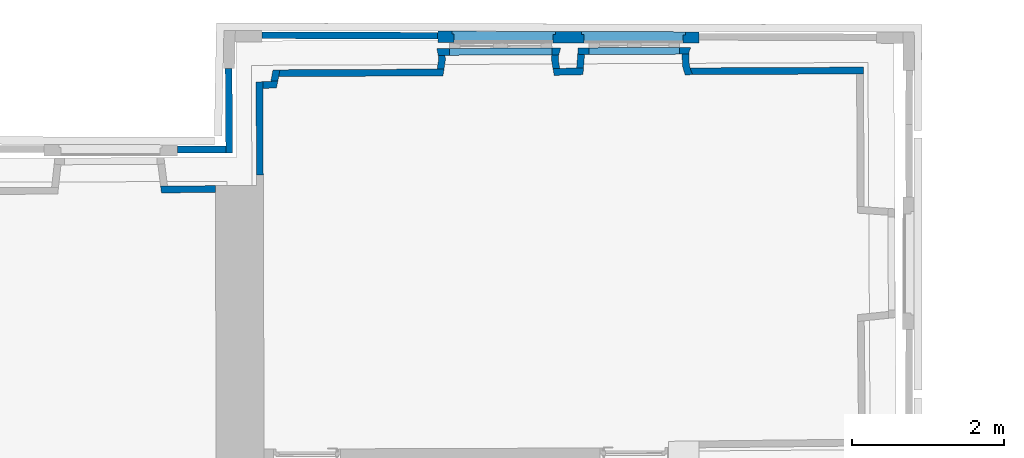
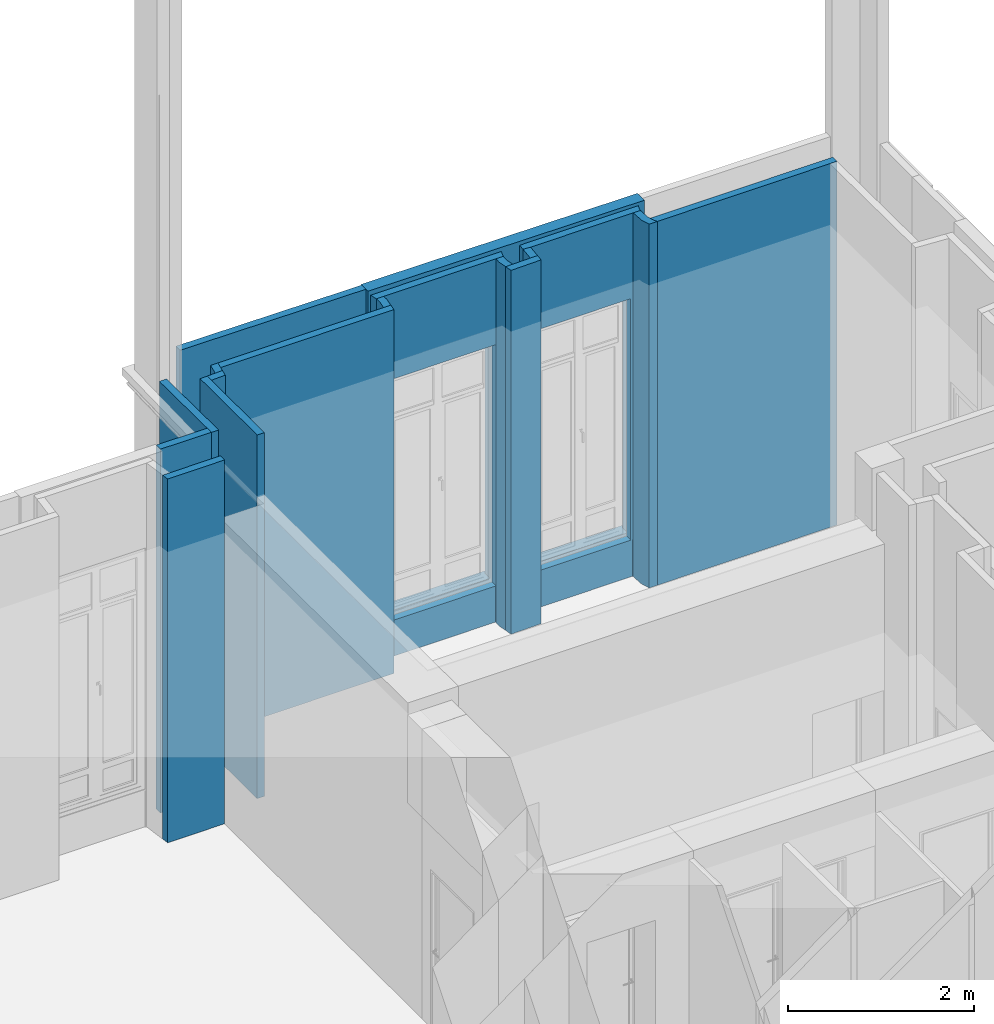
# One storey, part 23 of 97: 17 walls, 6 openings.
"""IFC2X3 building model written with IfcOpenShell, lengths in centimetres."""

from ifc_helpers import new_model, entity, si_unit, converted_unit, direction, frame, origin, origin_with_axes, origin_2d_with_axis, place, context, subcontext, project, spatial, polyline, rectangle, outline, extrude, clip, bounded_halfspace, faceted_brep, shape, material, layer, layer_set, layer_usage, type_object, element, save


model = new_model("IFC2X3")

# Units and contexts
model_context = context("Model", 3, precision=0.0001, world=origin(), true_north=direction((0.225632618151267, 0.974212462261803, 0.0)))
body_context = subcontext(model_context, "Body", "Model", "MODEL_VIEW")
footprint_context = subcontext(model_context, "FootPrint", "Model", "MODEL_VIEW")
profile_context = subcontext(model_context, "Profile", "Model", "MODEL_VIEW")
ifc_project = project(units=[si_unit("LENGTHUNIT", "METRE", prefix="CENTI"), si_unit("AREAUNIT", "SQUARE_METRE", prefix="CENTI"), si_unit("VOLUMEUNIT", "CUBIC_METRE", prefix="CENTI"), converted_unit("PLANEANGLEUNIT", "DEGREE", entity("IfcRatioMeasure", 0.0174532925), si_unit("PLANEANGLEUNIT", "RADIAN"), dimensions=[0, 0, 0, 0, 0, 0, 0])], contexts=[model_context])

# Site, building, storey
site_placement = place(None, origin_with_axes())
site = spatial("IfcSite", under=ifc_project, at=site_placement, Name="Default Site", CompositionType="ELEMENT")
building_placement = place(site_placement, origin_with_axes())
building = spatial("IfcBuilding", under=site, at=building_placement, Name="Default Building", CompositionType="ELEMENT")
storey_placement = place(building_placement, origin_with_axes())
storey = spatial("IfcBuildingStorey", under=building, at=storey_placement, Name="Rez-de-chaussée", CompositionType="ELEMENT", Elevation=0.0)

# Walls
ifc_material = material(Name="<aucun>")
ifc_layer_1 = layer(ifc_material, 9.0)
ifc_layer_set_1 = layer_set([ifc_layer_1], Name="default")
ifc_layer_usage_1 = layer_usage(ifc_layer_set_1, "AXIS2", "POSITIVE", -4.5)
wall_type_1 = type_object("IfcWallType", Name="default 90", PredefinedType="NOTDEFINED", material=ifc_layer_set_1)
wall_1_placement = place(storey_placement, frame((292.076480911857, 571.142306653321, 0.0128503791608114), z_axis=(0.0, 0.0, 1.0), x_axis=(-0.00303669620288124, 0.999995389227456, 0.0)))
element("IfcWallStandardCase", 1, at=wall_1_placement, inside=storey, type_object=wall_type_1, material=ifc_layer_usage_1, Name="Enveloppe 369010", context=body_context, shape_type="SweptSolid", body=[
    extrude(outline(polyline([(122.027487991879, 4.49999999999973), (-1.77635683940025e-13, 4.49999999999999), (-8.88178419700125e-14, -4.49999999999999), (122.426865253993, -4.5000000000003), (122.027487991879, 4.49999999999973)])), frame((0.0, 0.0, -5.42101086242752e-18), z_axis=(0.0, 0.0, 1.0), x_axis=(1.0, 0.0, 0.0)), (0.0, 0.0, 1.0), 477.795358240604),
])
ifc_layer_usage_2 = layer_usage(ifc_layer_set_1, "AXIS2", "POSITIVE", -4.5)
wall_2_placement = place(storey_placement, frame((525.706155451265, 753.802792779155, 0.0128503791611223), z_axis=(0.0, 0.0, 1.0), x_axis=(-0.9999942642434, 0.00338695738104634, 0.0)))
element("IfcWallStandardCase", 2, at=wall_2_placement, inside=storey, type_object=wall_type_1, material=ifc_layer_usage_2, Name="Enveloppe 369829", context=body_context, shape_type="SweptSolid", body=[
    extrude(rectangle(XDim=8.99999999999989, YDim=230.393591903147, at=origin_2d_with_axis()), frame((115.289139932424, 4.44089209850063e-13, 0.0), z_axis=(0.0, 0.0, 1.0), x_axis=(9.83458106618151e-15, -1.0, 0.0)), (0.0, 0.0, 1.0), 477.795358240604),
])
ifc_layer_usage_3 = layer_usage(ifc_layer_set_1, "AXIS2", "POSITIVE", -4.5)
wall_3_placement = place(storey_placement, frame((251.882200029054, 608.969432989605, 0.0128503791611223), z_axis=(0.0, 0.0, 1.0), x_axis=(-0.00735546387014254, 0.999972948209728, 0.0)))
element("IfcWallStandardCase", 3, at=wall_3_placement, inside=storey, type_object=wall_type_1, material=ifc_layer_usage_3, Name="Enveloppe 369832", context=body_context, shape_type="SweptSolid", body=[
    extrude(outline(polyline([(101.849297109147, 4.49999999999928), (-9.00043170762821, 4.50000000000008), (-9.08858455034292, -4.49999999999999), (101.849297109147, -4.5000000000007), (101.849297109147, 4.49999999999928)])), frame((0.0, 0.0, -2.71050543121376e-18), z_axis=(0.0, 0.0, 1.0), x_axis=(1.0, 0.0, 0.0)), (0.0, 0.0, 1.0), 477.795358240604),
])
ifc_layer_usage_4 = layer_usage(ifc_layer_set_1, "AXIS2", "POSITIVE", -4.5)
wall_4_placement = place(storey_placement, frame((248.329683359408, 604.434009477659, 0.0128503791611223), z_axis=(0.0, 0.0, 1.0), x_axis=(-0.999997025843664, 0.00243891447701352, 0.0)))
element("IfcWallStandardCase", 4, at=wall_4_placement, inside=storey, type_object=wall_type_1, material=ifc_layer_usage_4, Name="Enveloppe 369875", context=body_context, shape_type="SweptSolid", body=[
    extrude(outline(polyline([(64.2970171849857, 4.49999999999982), (0.870186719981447, 4.49999999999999), (0.958339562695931, -4.4999999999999), (64.2989353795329, -4.49999863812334), (64.2970171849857, 4.49999999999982)])), origin_with_axes(), (0.0, 0.0, 1.0), 477.795358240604),
])

# Wall, openings
ifc_layer_usage_5 = layer_usage(ifc_layer_set_1, "AXIS2", "POSITIVE", -4.5)
wall_5_placement = place(storey_placement, frame((532.490372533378, 732.679871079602, 0.0128503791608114), z_axis=(0.0, 0.0, 1.0), x_axis=(0.999989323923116, 0.00462082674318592, 0.0)))
wall_5 = element("IfcWallStandardCase", 5, at=wall_5_placement, inside=storey, type_object=wall_type_1, material=ifc_layer_usage_5, Name="Enveloppe 671504", context=body_context, shape_type="SweptSolid", body=[
    extrude(outline(polyline([(-8.07319008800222, 4.49999999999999), (-6.26623625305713, -4.49999999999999), (152.067058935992, -4.50000000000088), (154.474498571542, 4.49999999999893), (-8.07319008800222, 4.49999999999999)])), origin_with_axes(), (0.0, 0.0, 1.0), 477.795358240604),
])
opening_1_placement = place(wall_5_placement, frame((2.8564647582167, 0.0, -1.27677382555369e-13), z_axis=(0.0, 0.0, 1.0), x_axis=(-1.0, 6.84001466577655e-15, 0.0)))
cartesian_point_1 = entity("IfcCartesianPoint", [-8.88178419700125e-14, -8.88178419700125e-14, 48.0])
cartesian_point_2 = entity("IfcCartesianPoint", [-139.98012698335, -4.50000000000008])
element("IfcOpeningElement", 6, at=opening_1_placement, cuts=wall_5, Name="Baie 23852", ObjectType="Recess", shapes=[
    shape(body_context, "Body", "Brep", [faceted_brep([(2.16979396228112e-05, 24.4999819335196, -4.62480059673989e-10), (-139.980119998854, 24.4999819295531, -4.62480059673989e-10), (-139.980119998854, 24.4999819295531, 47.9999993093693), (2.16979396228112e-05, 24.4999819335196, 47.9999993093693), (2.16985346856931e-05, 3.49999234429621, 47.9999993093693), (2.16985346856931e-05, 3.49999234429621, -4.62480059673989e-10), (2.07461233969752e-05, 3.49999234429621, -4.62480059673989e-10), (-139.98012095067, 3.49998672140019, -4.62480059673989e-10), (-139.980119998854, 24.4999763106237, -4.62480059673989e-10), (-139.980119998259, 3.49998672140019, -4.62480059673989e-10), (-139.980119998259, 3.49998672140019, 47.9999993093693), (-139.980119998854, 24.4999763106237, 47.9999993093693), (-139.98012095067, 3.49998672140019, 47.9999993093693), (2.07461233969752e-05, 3.49999234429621, 47.9999993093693), (2.07461233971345e-05, 3.49998672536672, -4.62480059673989e-10), (2.07461233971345e-05, 3.49998672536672, 47.9999993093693)], [[[0, 1, 2, 3]], [[3, 4, 5, 0]], [[0, 6, 7, 8]], [[8, 9, 10, 11]], [[11, 12, 13, 3]], [[12, 7, 14, 15]]])]),
    shape(profile_context, "Profile", "GeometricCurveSet", [entity("IfcGeometricCurveSet", [entity("IfcPolyline", [cartesian_point_1, entity("IfcCartesianPoint", [-8.88178419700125e-14, -8.88178419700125e-14, 0.0]), entity("IfcCartesianPoint", [-139.98012698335, -8.88178419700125e-14, 0.0]), entity("IfcCartesianPoint", [-139.98012698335, -8.88178419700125e-14, 48.0]), cartesian_point_1])])]),
    shape(footprint_context, "FootPrint", "GeometricCurveSet", [entity("IfcGeometricCurveSet", [entity("IfcPolyline", [cartesian_point_2, entity("IfcCartesianPoint", [-8.88178419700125e-14, -4.50000000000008]), entity("IfcCartesianPoint", [-8.88178419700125e-14, 4.49999999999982]), entity("IfcCartesianPoint", [-139.98012698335, 4.49999999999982]), cartesian_point_2])])]),
])
opening_2_placement = place(wall_5_placement, frame((8.44156843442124, 1.13686837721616e-13, 48.1016933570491), z_axis=(0.0, 0.0, 1.0), x_axis=(-1.0, 6.84001466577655e-15, 0.0)))
cartesian_point_3 = entity("IfcCartesianPoint", [-8.88178419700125e-14, 0.0, 317.0])
cartesian_point_4 = entity("IfcCartesianPoint", [-134.395023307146, -4.49999999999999])
element("IfcOpeningElement", 7, at=opening_2_placement, cuts=wall_5, Name="4294966449_11", ObjectType="Opening", shapes=[
    shape(body_context, "Body", "SweptSolid", [extrude(outline(polyline([(0.0, 317.0), (0.0, 0.0), (134.395023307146, 0.0), (134.395023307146, 317.0), (0.0, 317.0)])), frame((0.0, -14.5, 0.0), z_axis=(0.0, 1.0, 0.0), x_axis=(-1.0, 0.0, 0.0)), (0.0, 0.0, 1.0), 29.0)]),
    shape(profile_context, "Profile", "GeometricCurveSet", [entity("IfcGeometricCurveSet", [entity("IfcPolyline", [cartesian_point_3, entity("IfcCartesianPoint", [-8.88178419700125e-14, 0.0, 0.0]), entity("IfcCartesianPoint", [-134.395023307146, 0.0, 0.0]), entity("IfcCartesianPoint", [-134.395023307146, 0.0, 317.0]), cartesian_point_3])])]),
    shape(footprint_context, "FootPrint", "GeometricCurveSet", [entity("IfcGeometricCurveSet", [entity("IfcPolyline", [cartesian_point_4, entity("IfcCartesianPoint", [0.0, -4.4999999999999]), entity("IfcCartesianPoint", [-8.88178419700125e-14, 4.49999999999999]), entity("IfcCartesianPoint", [-134.395023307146, 4.4999999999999]), cartesian_point_4])])]),
])

# Walls
ifc_layer_usage_6 = layer_usage(ifc_layer_set_1, "AXIS2", "POSITIVE", -4.5)
wall_6_placement = place(storey_placement, frame((711.810578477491, 703.08467697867, 0.0128503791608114), z_axis=(0.0, 0.0, 1.0), x_axis=(0.0777964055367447, 0.996969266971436, 0.0)))
element("IfcWallStandardCase", 8, at=wall_6_placement, inside=storey, type_object=wall_type_1, material=ifc_layer_usage_6, Name="Enveloppe 671646", context=body_context, shape_type="SweptSolid", body=[
    extrude(outline(polyline([(8.13278245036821, 4.49999999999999), (9.04623671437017, -4.50000000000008), (26.3840249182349, -4.50000000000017), (26.384024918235, 4.4999999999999), (8.13278245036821, 4.49999999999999)])), origin_with_axes(), (0.0, 0.0, 1.0), 477.795358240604),
])
ifc_layer_usage_7 = layer_usage(ifc_layer_set_1, "AXIS2", "POSITIVE", -4.5)
wall_7_placement = place(storey_placement, frame((316.790902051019, 704.68286229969, 0.0128503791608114), z_axis=(0.0, 0.0, 1.0), x_axis=(0.999989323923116, 0.00462082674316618, 0.0)))
element("IfcWallStandardCase", 9, at=wall_7_placement, inside=storey, type_object=wall_type_1, material=ifc_layer_usage_7, Name="Enveloppe 670785", context=body_context, shape_type="SweptSolid", body=[
    extrude(outline(polyline([(-1.95399252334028e-12, -4.49999999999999), (215.683001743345, -4.49999999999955), (217.101609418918, 4.50000000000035), (1.78202750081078, 4.4999999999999), (-1.95399252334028e-12, -4.49999999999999)])), frame((0.0, 0.0, 2.71050543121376e-18), z_axis=(0.0, 0.0, 1.0), x_axis=(1.0, 0.0, 0.0)), (0.0, 0.0, 1.0), 477.795358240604),
])
ifc_layer_usage_8 = layer_usage(ifc_layer_set_1, "AXIS2", "POSITIVE", -4.5)
wall_8_placement = place(storey_placement, frame((678.366242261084, 706.352874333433, 0.0128503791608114), z_axis=(0.0, 0.0, 1.0), x_axis=(0.999729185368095, 0.0232713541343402, 0.0)))
element("IfcWallStandardCase", 10, at=wall_8_placement, inside=storey, type_object=wall_type_1, material=ifc_layer_usage_8, Name="Enveloppe 671451", context=body_context, shape_type="SweptSolid", body=[
    extrude(outline(polyline([(-1.38239385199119, 4.49999999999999), (-0.000806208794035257, -4.49998122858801), (37.8362234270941, -4.49999999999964), (38.7496776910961, 4.50000000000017), (-1.38239385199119, 4.49999999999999)])), origin_with_axes(), (0.0, 0.0, 1.0), 477.795358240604),
])

# Wall, openings
ifc_layer_usage_9 = layer_usage(ifc_layer_set_1, "AXIS2", "POSITIVE", -4.5)
wall_9_placement = place(storey_placement, frame((714.185493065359, 733.519461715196, 0.0128503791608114), z_axis=(0.0, 0.0, 1.0), x_axis=(0.999989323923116, 0.00462082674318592, 0.0)))
wall_9 = element("IfcWallStandardCase", 11, at=wall_9_placement, inside=storey, type_object=wall_type_1, material=ifc_layer_usage_9, Name="Enveloppe 671854", context=body_context, shape_type="SweptSolid", body=[
    extrude(outline(polyline([(-4.82611232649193, -3.7583784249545), (4.14327992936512, -4.49999999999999), (141.070799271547, -4.50000000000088), (141.765305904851, -0.0822108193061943), (143.830860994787, 4.49999999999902), (-4.14327992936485, 4.50000000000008), (-4.82611232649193, -3.7583784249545)])), origin_with_axes(), (0.0, 0.0, 1.0), 477.795358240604),
])
opening_3_placement = place(wall_9_placement, frame((4.14327992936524, -1.13686837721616e-13, -1.27677382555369e-13), z_axis=(0.0, 0.0, 1.0), x_axis=(-1.0, 6.99527241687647e-15, 0.0)))
cartesian_point_5 = entity("IfcCartesianPoint", [0.0, 8.88178419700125e-14, 49.0])
cartesian_point_6 = entity("IfcCartesianPoint", [-127.799696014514, -4.4999999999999])
element("IfcOpeningElement", 12, at=opening_3_placement, cuts=wall_9, Name="Baie 23855", ObjectType="Recess", shapes=[
    shape(body_context, "Body", "Brep", [faceted_brep([(2.3462822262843e-05, 24.4999910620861, -4.62480059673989e-10), (-127.799659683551, 24.4999910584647, -4.62480059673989e-10), (-127.799659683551, 24.4999910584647, 49.0000013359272), (2.3462822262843e-05, 24.4999910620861, 49.0000013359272), (2.34634173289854e-05, 3.50000147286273, 49.0000013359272), (2.34634173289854e-05, 3.50000147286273, -4.62480059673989e-10), (2.25110060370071e-05, 3.50000147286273, -4.62480059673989e-10), (-127.799708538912, 3.49997906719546, -4.62480059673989e-10), (-127.799659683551, 24.5000161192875, -4.62480059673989e-10), (-127.799659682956, 3.49997906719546, -4.62480059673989e-10), (-127.799659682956, 3.49997906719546, 49.0000013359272), (-127.799659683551, 24.5000161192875, 49.0000013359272), (-127.799708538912, 3.49997906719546, 49.0000013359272), (2.25110060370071e-05, 3.50000147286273, 49.0000013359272), (2.25110060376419e-05, 3.49997907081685, -4.62480059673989e-10), (2.25110060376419e-05, 3.49997907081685, 49.0000013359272)], [[[0, 1, 2, 3]], [[3, 4, 5, 0]], [[0, 6, 7, 8]], [[8, 9, 10, 11]], [[11, 12, 13, 3]], [[12, 7, 14, 15]]])]),
    shape(profile_context, "Profile", "GeometricCurveSet", [entity("IfcGeometricCurveSet", [entity("IfcPolyline", [cartesian_point_5, entity("IfcCartesianPoint", [0.0, 8.88178419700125e-14, 0.0]), entity("IfcCartesianPoint", [-127.799696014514, 8.88178419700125e-14, 0.0]), entity("IfcCartesianPoint", [-127.799696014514, 8.88178419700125e-14, 49.0]), cartesian_point_5])])]),
    shape(footprint_context, "FootPrint", "GeometricCurveSet", [entity("IfcGeometricCurveSet", [entity("IfcPolyline", [cartesian_point_6, entity("IfcCartesianPoint", [8.88178419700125e-14, -4.49999999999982]), entity("IfcCartesianPoint", [0.0, 4.50000000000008]), entity("IfcCartesianPoint", [-127.799696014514, 4.50000000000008]), cartesian_point_6])])]),
])
opening_4_placement = place(wall_9_placement, frame((9.90267929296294, -2.27373675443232e-13, 49.1086073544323), z_axis=(0.0, 0.0, 1.0), x_axis=(-1.0, 6.99527241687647e-15, 0.0)))
cartesian_point_7 = entity("IfcCartesianPoint", [0.0, 0.0, 317.0])
cartesian_point_8 = entity("IfcCartesianPoint", [-118.964460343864, -4.4999999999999])
element("IfcOpeningElement", 13, at=opening_4_placement, cuts=wall_9, Name="4294966460_11", ObjectType="Opening", shapes=[
    shape(body_context, "Body", "SweptSolid", [extrude(outline(polyline([(0.0, 317.0), (0.0, 0.0), (118.964460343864, 0.0), (118.964460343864, 317.0), (0.0, 317.0)])), frame((0.0, -14.5, 0.0), z_axis=(0.0, 1.0, 0.0), x_axis=(-1.0, 0.0, 0.0)), (0.0, 0.0, 1.0), 29.0)]),
    shape(profile_context, "Profile", "GeometricCurveSet", [entity("IfcGeometricCurveSet", [entity("IfcPolyline", [cartesian_point_7, entity("IfcCartesianPoint", [0.0, 0.0, 0.0]), entity("IfcCartesianPoint", [-118.964460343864, 8.88178419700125e-14, 0.0]), entity("IfcCartesianPoint", [-118.964460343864, 8.88178419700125e-14, 317.0]), cartesian_point_7])])]),
    shape(footprint_context, "FootPrint", "GeometricCurveSet", [entity("IfcGeometricCurveSet", [entity("IfcPolyline", [cartesian_point_8, entity("IfcCartesianPoint", [0.0, -4.4999999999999]), entity("IfcCartesianPoint", [-8.88178419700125e-14, 4.49999999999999]), entity("IfcCartesianPoint", [-118.964460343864, 4.50000000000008]), cartesian_point_8])])]),
])

# Walls
ifc_layer_usage_10 = layer_usage(ifc_layer_set_1, "AXIS2", "POSITIVE", -4.5)
wall_10_placement = place(storey_placement, frame((850.433965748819, 707.148764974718, 0.0128503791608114), z_axis=(0.0, 0.0, 1.0), x_axis=(0.999989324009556, 0.00462080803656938, 0.0)))
element("IfcWallStandardCase", 14, at=wall_10_placement, inside=storey, type_object=wall_type_1, material=ifc_layer_usage_10, Name="Enveloppe 672633", context=body_context, shape_type="SweptSolid", body=[
    extrude(outline(polyline([(6.56419229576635, 4.4999999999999), (8.27975409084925, -0.972158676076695), (10.2681251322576, -4.4999999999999), (233.988764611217, -4.49999999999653), (233.981091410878, 4.4997596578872), (6.56419229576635, 4.4999999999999)])), origin_with_axes(), (0.0, 0.0, 1.0), 477.795358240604),
])
ifc_layer_usage_11 = layer_usage(ifc_layer_set_1, "AXIS2", "POSITIVE", -4.5)
wall_11_placement = place(storey_placement, frame((162.900112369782, 552.130191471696, 0.0128503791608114), z_axis=(0.0, 0.0, 1.0), x_axis=(0.999982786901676, 0.00586735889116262, 0.0)))
element("IfcWallStandardCase", 15, at=wall_11_placement, inside=storey, type_object=wall_type_1, material=ifc_layer_usage_11, Name="Enveloppe 669187", context=body_context, shape_type="Clipping", body=[
    clip(extrude(outline(polyline([(-1.09146826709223, 4.49999999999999), (-0.0284032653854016, -4.49999999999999), (70.8199855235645, -4.50101270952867), (70.8454622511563, 4.49902237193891), (-1.09146826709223, 4.49999999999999)])), origin_with_axes(), (0.0, 0.0, 1.0), 477.795358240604), bounded_halfspace(frame((70.8454675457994, 4.49992474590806, 395.995358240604), z_axis=(0.0, 0.0, -1.0), x_axis=(-0.999995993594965, 0.00283068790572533, 0.0)), True, frame((70.8454675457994, 4.49992474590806, 395.995358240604), z_axis=(0.0, 0.0, 1.0), x_axis=(1.0, 0.0, 0.0)), polyline([(-0.0254760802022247, -8.99992474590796), (0.0, 0.0), (-0.0265849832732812, 7.52540921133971e-05), (-0.0254760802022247, -8.99992474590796)]))),
])
ifc_layer_usage_12 = layer_usage(ifc_layer_set_1, "AXIS2", "POSITIVE", -4.5)
wall_12_placement = place(storey_placement, frame((293.767567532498, 688.961652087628, 0.0128503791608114), z_axis=(0.0, 0.0, 1.0), x_axis=(0.998877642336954, 0.0473651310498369, 0.0)))
element("IfcWallStandardCase", 16, at=wall_12_placement, inside=storey, type_object=wall_type_1, material=ifc_layer_usage_12, Name="Enveloppe 670679", context=body_context, shape_type="SweptSolid", body=[
    extrude(outline(polyline([(2.65324040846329, 4.4999999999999), (2.25386314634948, -4.49999999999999), (19.9999999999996, -4.50000000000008), (22.1856375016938, 4.4999999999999), (2.65324040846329, 4.4999999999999)])), frame((0.0, 0.0, -2.71050543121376e-18), z_axis=(0.0, 0.0, 1.0), x_axis=(1.0, 0.0, 0.0)), (0.0, 0.0, 1.0), 477.795358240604),
])
ifc_layer_usage_13 = layer_usage(ifc_layer_set_1, "AXIS2", "POSITIVE", -4.5)
wall_13_placement = place(storey_placement, frame((309.539971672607, 686.267643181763, 0.0128503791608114), z_axis=(0.0, 0.0, 1.0), x_axis=(0.189697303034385, 0.981842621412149, 0.0)))
element("IfcWallStandardCase", 17, at=wall_13_placement, inside=storey, type_object=wall_type_1, material=ifc_layer_usage_13, Name="Enveloppe 670733", context=body_context, shape_type="SweptSolid", body=[
    extrude(outline(polyline([(7.07595044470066, 4.49999999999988), (9.26158794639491, -4.50000000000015), (24.2167561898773, -4.50000000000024), (22.4347286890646, 4.49999999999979), (7.07595044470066, 4.49999999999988)])), origin_with_axes(), (0.0, 0.0, 1.0), 477.795358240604),
])

# Wall, openings
ifc_layer_2 = layer(ifc_material, 15.0)
ifc_layer_set_2 = layer_set([ifc_layer_2], Name="default")
ifc_layer_usage_14 = layer_usage(ifc_layer_set_2, "AXIS2", "POSITIVE", -7.5)
wall_type_2 = type_object("IfcWallType", Name="default 150", PredefinedType="NOTDEFINED", material=ifc_layer_set_2)
wall_14_placement = place(storey_placement, frame((868.665548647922, 751.540434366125, 0.0128503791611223), z_axis=(0.0, 0.0, 1.0), x_axis=(-0.999996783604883, 0.00253629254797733, 0.0)))
wall_14 = element("IfcWallStandardCase", 18, at=wall_14_placement, inside=storey, type_object=wall_type_2, material=ifc_layer_usage_14, Name="Enveloppe 369477", context=body_context, shape_type="SweptSolid", body=[
    extrude(outline(polyline([(343.060200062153, 3.1074140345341), (342.960680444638, 3.10750031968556), (342.960200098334, 7.49999999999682), (1.77635683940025e-13, 7.50000000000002), (-7.93263765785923e-07, 3.39955740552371), (-0.0923439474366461, 3.39932319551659), (-0.099999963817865, -5.60067354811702), (-8.59031423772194e-07, -5.60041992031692), (-1.77635683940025e-13, -7.50000000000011), (342.960200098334, -7.5000000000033), (342.960200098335, -5.89250415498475), (343.052544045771, -5.89258270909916), (343.060200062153, 3.1074140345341)])), frame((0.0, 0.0, -2.71050543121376e-18), z_axis=(0.0, 0.0, 1.0), x_axis=(1.0, 0.0, 0.0)), (0.0, 0.0, 1.0), 477.795358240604),
])
opening_5_placement = place(wall_14_placement, frame((17.9854223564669, -1.13686837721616e-13, 48.2871496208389), z_axis=(0.0, 0.0, 1.0), x_axis=(-1.0, 9.36880781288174e-15, 0.0)))
cartesian_point_9 = entity("IfcCartesianPoint", [-1.77635683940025e-13, 0.0, 345.104807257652])
cartesian_point_10 = entity("IfcCartesianPoint", [-136.071147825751, -7.50000000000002])
element("IfcOpeningElement", 19, at=opening_5_placement, cuts=wall_14, Name="Baie 379478", ObjectType="Opening", shapes=[
    shape(body_context, "Body", "Brep", [faceted_brep([(-2.99997216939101, -27.4999769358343, 345.104817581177), (-133.071124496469, -27.4999769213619, 345.104817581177), (-133.071124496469, -27.4999769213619, 1.02519988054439e-06), (-2.99997216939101, -27.4999769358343, 1.02519988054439e-06), (3.72779799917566e-05, 27.5000078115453, 1.02519988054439e-06), (-136.071128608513, 27.5000078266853, 1.02519988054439e-06), (-136.071128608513, 27.5000078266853, 345.104817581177), (3.72779799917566e-05, 27.5000078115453, 345.104817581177), (-2.9999721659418, 3.5000215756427, 1.02519988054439e-06), (-2.9999721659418, 3.5000215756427, 345.104817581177), (-3.0000144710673, 3.50002157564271, 345.104817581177), (-3.0000144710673, 3.50002157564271, 1.02519988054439e-06), (-3.14726712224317e-05, 3.50002157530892, 1.02519988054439e-06), (-3.14726712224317e-05, 3.50002157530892, 345.104817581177), (-3.14726712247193e-05, 3.50000101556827, 345.104817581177), (-3.14726712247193e-05, 3.50000101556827, 1.02519988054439e-06), (-3.14700008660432e-05, 27.5000078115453, 1.02519988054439e-06), (-3.14700008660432e-05, 27.5000078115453, 345.104817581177), (-133.071124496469, -27.4999994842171, 1.02519988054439e-06), (-133.071166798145, 3.4999990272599, 1.02519988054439e-06), (-136.071149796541, 3.50001958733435, 1.02519988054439e-06), (-136.071128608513, 27.4999785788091, 1.02519988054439e-06), (-133.071124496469, -27.4999994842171, 345.104817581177), (-133.07112449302, 3.4999990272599, 345.104817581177), (-133.07112449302, 3.4999990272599, 1.0251998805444e-06), (-133.071166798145, 3.4999990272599, 345.104817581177), (-136.071149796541, 3.4999990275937, 345.104817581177), (-136.071149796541, 3.4999990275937, 1.02519988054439e-06), (-136.071149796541, 3.50001958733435, 345.104817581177), (-136.071149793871, 27.4999785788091, 345.104817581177), (-136.071149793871, 27.4999785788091, 1.02519988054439e-06), (-136.071128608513, 27.4999785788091, 345.104817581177)], [[[0, 1, 2, 3]], [[4, 5, 6, 7]], [[0, 3, 8, 9]], [[10, 11, 12, 13]], [[14, 15, 16, 17]], [[3, 18, 19, 20, 21, 4, 15, 11]], [[18, 22, 23, 24]], [[19, 25, 26, 27]], [[20, 28, 29, 30]], [[10, 14, 7, 31, 28, 25, 22, 0]]])]),
    shape(profile_context, "Profile", "GeometricCurveSet", [entity("IfcGeometricCurveSet", [entity("IfcPolyline", [cartesian_point_9, entity("IfcCartesianPoint", [0.0, 0.0, -5.55111512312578e-15]), entity("IfcCartesianPoint", [-136.071147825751, 0.0, -5.55111512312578e-15]), entity("IfcCartesianPoint", [-136.071147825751, 0.0, 345.104807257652]), cartesian_point_9])])]),
    shape(footprint_context, "FootPrint", "GeometricCurveSet", [entity("IfcGeometricCurveSet", [entity("IfcPolyline", [cartesian_point_10, entity("IfcCartesianPoint", [0.0, -7.50000000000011]), entity("IfcCartesianPoint", [0.0, 7.49999999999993]), entity("IfcCartesianPoint", [-136.071147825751, 7.50000000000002]), cartesian_point_10])])]),
])
opening_6_placement = place(wall_14_placement, frame((188.726890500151, -1.59161572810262e-12, 47.947255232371), z_axis=(0.0, 0.0, 1.0), x_axis=(-1.0, 9.36880781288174e-15, 0.0)))
cartesian_point_11 = entity("IfcCartesianPoint", [-1.77635683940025e-13, 8.88178419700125e-14, 345.42685236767])
cartesian_point_12 = entity("IfcCartesianPoint", [-135.828483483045, -7.49999999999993])
element("IfcOpeningElement", 20, at=opening_6_placement, cuts=wall_14, Name="Baie 379479", ObjectType="Opening", shapes=[
    shape(body_context, "Body", "Brep", [faceted_brep([(-2.99999129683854, -27.5000114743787, 345.42685441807), (-132.828480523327, -27.5000114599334, 345.42685441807), (-132.828480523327, -27.5000114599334, -7.31639471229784e-08), (-2.99999129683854, -27.5000114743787, -7.31639471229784e-08), (1.80295924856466e-05, 27.5000209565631, -7.31639471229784e-08), (-135.828484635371, 27.500020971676, -7.31639471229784e-08), (-135.828484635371, 27.500020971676, 345.42685441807), (1.80295924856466e-05, 27.5000209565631, 345.42685441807), (-2.99999129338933, 3.49998715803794, -7.31639471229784e-08), (-2.99999129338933, 3.49998715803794, 345.42685441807), (-2.99998591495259, 3.49998715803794, 345.42685441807), (-2.99998591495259, 3.49998715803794, -7.31639471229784e-08), (-3.03749630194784e-06, 3.49998715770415, -7.31639471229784e-08), (-3.03749630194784e-06, 3.49998715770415, 345.42685441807), (-3.03749629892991e-06, 3.50001428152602, 345.42685441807), (-3.03749629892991e-06, 3.50001428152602, -7.31639471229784e-08), (-3.03482594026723e-06, 27.5000209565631, -7.31639471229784e-08), (-3.03482594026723e-06, 27.5000209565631, 345.42685441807), (-132.828480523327, -27.4999907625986, -7.31639471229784e-08), (-132.828475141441, 3.50000786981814, -7.31639471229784e-08), (-135.82850570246, 3.49998062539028, -7.31639471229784e-08), (-135.828484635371, 27.4999873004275, -7.31639471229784e-08), (-132.828480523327, -27.4999907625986, 345.42685441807), (-132.828480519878, 3.50000786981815, 345.42685441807), (-132.828480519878, 3.50000786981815, -7.31639471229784e-08), (-132.828475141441, 3.50000786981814, 345.42685441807), (-135.82850570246, 3.50000787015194, 345.42685441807), (-135.82850570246, 3.50000787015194, -7.31639471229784e-08), (-135.82850570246, 3.49998062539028, 345.42685441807), (-135.828505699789, 27.4999873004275, 345.42685441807), (-135.828505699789, 27.4999873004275, -7.31639471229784e-08), (-135.828484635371, 27.4999873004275, 345.42685441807)], [[[0, 1, 2, 3]], [[4, 5, 6, 7]], [[0, 3, 8, 9]], [[10, 11, 12, 13]], [[14, 15, 16, 17]], [[3, 18, 19, 20, 21, 4, 15, 11]], [[18, 22, 23, 24]], [[19, 25, 26, 27]], [[20, 28, 29, 30]], [[10, 14, 7, 31, 28, 25, 22, 0]]])]),
    shape(profile_context, "Profile", "GeometricCurveSet", [entity("IfcGeometricCurveSet", [entity("IfcPolyline", [cartesian_point_11, entity("IfcCartesianPoint", [-1.77635683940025e-13, 8.88178419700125e-14, -5.55111512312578e-15]), entity("IfcCartesianPoint", [-135.828483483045, 8.88178419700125e-14, -5.55111512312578e-15]), entity("IfcCartesianPoint", [-135.828483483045, 8.88178419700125e-14, 345.42685236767]), cartesian_point_11])])]),
    shape(footprint_context, "FootPrint", "GeometricCurveSet", [entity("IfcGeometricCurveSet", [entity("IfcPolyline", [cartesian_point_12, entity("IfcCartesianPoint", [-8.88178419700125e-14, -7.49999999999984]), entity("IfcCartesianPoint", [-1.77635683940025e-13, 7.50000000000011]), entity("IfcCartesianPoint", [-135.828483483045, 7.5000000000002]), cartesian_point_12])])]),
])

# Walls
ifc_layer_usage_15 = layer_usage(ifc_layer_set_1, "AXIS2", "POSITIVE", -4.5)
wall_type_3 = type_object("IfcWallType", Name="default 90", PredefinedType="NOTDEFINED", material=ifc_layer_set_1)
wall_15_placement = place(storey_placement, frame((528.197969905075, 702.524131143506, 0.0128503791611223), z_axis=(0.0, 0.0, 1.0), x_axis=(0.298797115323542, 0.954316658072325, 0.0)))
element("IfcWallStandardCase", 21, at=wall_15_placement, inside=storey, type_object=wall_type_3, material=ifc_layer_usage_15, Name="Enveloppe courbe 672578", context=body_context, shape_type="SweptSolid", body=[
    extrude(outline(polyline([(6.27566773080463, 5.45949211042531), (9.00645905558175, -3.12299491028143), (20.6948012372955, -1.33595445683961), (26.6386070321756, 0.827721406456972), (23.8725707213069, 9.52097838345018), (23.1770685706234, 9.13541371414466), (18.0056271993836, 7.25289546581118), (6.27566773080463, 5.45949211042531)])), origin_with_axes(), (0.0, 0.0, 1.0), 477.795358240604),
])
ifc_layer_usage_16 = layer_usage(ifc_layer_set_1, "AXIS2", "POSITIVE", -4.5)
wall_16_placement = place(storey_placement, frame((682.696033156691, 703.40289477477, 0.0128503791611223), z_axis=(0.0, 0.0, 1.0), x_axis=(-0.344178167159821, 0.938904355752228, 0.0)))
element("IfcWallStandardCase", 22, at=wall_16_placement, inside=storey, type_object=wall_type_3, material=ifc_layer_usage_16, Name="Enveloppe courbe 672288", context=body_context, shape_type="SweptSolid", body=[
    extrude(outline(polyline([(19.987315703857, 0.952018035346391), (8.96539246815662, 2.90853813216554), (6.07642578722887, -5.57863654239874), (16.8897121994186, -7.49812116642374), (22.3192119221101, -9.86936575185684), (23.2757505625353, -10.5352304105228), (26.412595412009, -1.85411705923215), (19.987315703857, 0.952018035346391)])), frame((0.0, 0.0, -3.10865157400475e-13), z_axis=(0.0, 0.0, 1.0), x_axis=(1.0, 0.0, 0.0)), (0.0, 0.0, 1.0), 477.795358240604),
])
ifc_layer_usage_17 = layer_usage(ifc_layer_set_1, "AXIS2", "POSITIVE", -4.5)
wall_17_placement = place(storey_placement, frame((854.5864421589, 704.431842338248, 0.0128503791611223), z_axis=(0.0, 0.0, 1.0), x_axis=(-0.396229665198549, 0.91815143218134, 0.0)))
element("IfcWallStandardCase", 23, at=wall_17_placement, inside=storey, type_object=wall_type_3, material=ifc_layer_usage_17, Name="Enveloppe courbe 671853", context=body_context, shape_type="SweptSolid", body=[
    extrude(outline(polyline([(26.4657957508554, -2.2660993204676), (10.8455225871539, 3.42295106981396), (4.35699107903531e-06, 4.49999956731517), (-4.02492442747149, -4.94639350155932), (8.88178419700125e-14, -4.49999999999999), (9.07543247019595, -5.40126453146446), (22.1463318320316, -10.1618090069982), (22.9006548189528, -10.633383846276), (26.4657957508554, -2.2660993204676)])), frame((0.0, 0.0, -3.10867867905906e-13), z_axis=(0.0, 0.0, 1.0), x_axis=(1.0, 0.0, 0.0)), (0.0, 0.0, 1.0), 477.795358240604),
])

save(model, "model.ifc")
